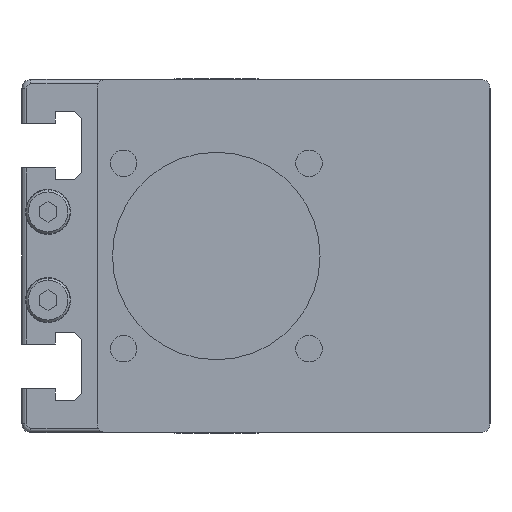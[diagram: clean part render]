
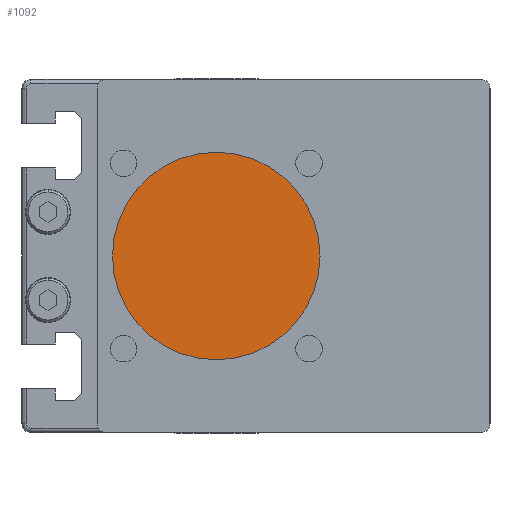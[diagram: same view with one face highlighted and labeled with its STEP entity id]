
A CAD part, left-side view. The second image highlights one B-rep face of the part: STEP entity #1092.
In plain terms, the highlighted planar face has unit normal (-1, 0, 0) as drawn and (1, 0, 0) by its records, which use the part's own axes.
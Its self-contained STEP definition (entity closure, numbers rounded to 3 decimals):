
#1092 = ADVANCED_FACE ( 'NONE', ( #7467 ), #8530, .T. ) ;
#2003 = VERTEX_POINT ( 'NONE', #5356 ) ;
#2336 = EDGE_CURVE ( 'NONE', #2003, #8802, #8768, .T. ) ;
#2474 = AXIS2_PLACEMENT_3D ( 'NONE', #9365, #9338, #9308 ) ;
#4386 = AXIS2_PLACEMENT_3D ( 'NONE', #9342, #8972, #8850 ) ;
#4893 = ORIENTED_EDGE ( 'NONE', *, *, #8812, .T. ) ;
#5126 = ORIENTED_EDGE ( 'NONE', *, *, #2336, .T. ) ;
#5275 = EDGE_LOOP ( 'NONE', ( #5126, #4893 ) ) ;
#5356 = CARTESIAN_POINT ( 'NONE',  ( -2., 0., -23.5 ) ) ;
#7467 = FACE_OUTER_BOUND ( 'NONE', #5275, .T. ) ;
#7692 = AXIS2_PLACEMENT_3D ( 'NONE', #8401, #8050, #8324 ) ;
#8050 = DIRECTION ( 'NONE',  ( 1., 0., 0. ) ) ;
#8324 = DIRECTION ( 'NONE',  ( 0., 0., -1. ) ) ;
#8401 = CARTESIAN_POINT ( 'NONE',  ( -2., 0., 0. ) ) ;
#8530 = PLANE ( 'NONE',  #4386 ) ;
#8768 = CIRCLE ( 'NONE', #2474, 23.5 ) ;
#8791 = CARTESIAN_POINT ( 'NONE',  ( -2., 0., 23.5 ) ) ;
#8802 = VERTEX_POINT ( 'NONE', #8791 ) ;
#8812 = EDGE_CURVE ( 'NONE', #8802, #2003, #9103, .T. ) ;
#8850 = DIRECTION ( 'NONE',  ( 0., 0., -1. ) ) ;
#8972 = DIRECTION ( 'NONE',  ( 1., 0., 0. ) ) ;
#9103 = CIRCLE ( 'NONE', #7692, 23.5 ) ;
#9308 = DIRECTION ( 'NONE',  ( 0., 0., -1. ) ) ;
#9338 = DIRECTION ( 'NONE',  ( 1., 0., 0. ) ) ;
#9342 = CARTESIAN_POINT ( 'NONE',  ( -2., 0., 0. ) ) ;
#9365 = CARTESIAN_POINT ( 'NONE',  ( -2., 0., 0. ) ) ;
